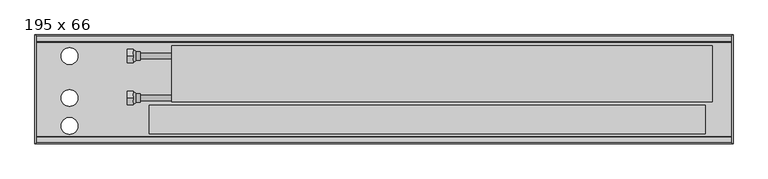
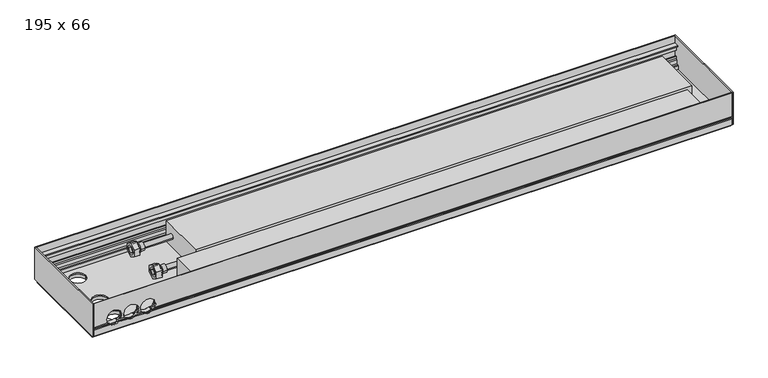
"""IFC4 building model written with IfcOpenShell, lengths in millimetres: proxy geometry, Mohlenhof_Внутрипольный конвектор_QSKM : 195 x 66."""

from ifc_helpers import new_model, si_unit, point, frame, frame_2d, origin, place, context, project, spatial, polyline, circle_curve, ellipse_curve, trimmed, segment, composite_curve, outline, extrude, source, transform, mapped, element, save
from ifc_brep_helpers import plane_surface, cylinder_surface, revolved_surface, advanced_brep


def proxy_195_x_66_b28eacb2(model_context):
    return source(origin(), model_context, "Body", "SolidModel", [
        advanced_brep(
        [(-449.0, -213.0, -41.0), (-449.0, -201.0, -41.0), (-449.0, -225.0, -41.0), (-436.5, -220.5, -41.0), (-436.5, -205.5, -41.0), (-436.5, -213.0, -41.0), (-444.0, -220.5, -41.0), (-444.0, -205.5, -41.0)],
        [
            (0, 1),
            (1, 2, circle_curve(frame((-449.0, -213.0, -41.0), z_axis=(-1.0, 0.0, 0.0), x_axis=(0.0, 1.0, 0.0)), 12.0)),
            (2, 0),
            (2, 1, circle_curve(frame((-449.0, -213.0, -41.0), z_axis=(-1.0, 0.0, 0.0), x_axis=(0.0, 1.0, 0.0)), 12.0)),
            (3, 4, circle_curve(frame((-436.5, -213.0, -41.0), z_axis=(1.0, 0.0, 0.0), x_axis=(0.0, 1.0, 0.0)), 7.5)),
            (4, 5),
            (5, 3),
            (4, 3, circle_curve(frame((-436.5, -213.0, -41.0), z_axis=(1.0, 0.0, 0.0), x_axis=(0.0, 1.0, 0.0)), 7.5)),
            (6, 7, circle_curve(frame((-444.0, -213.0, -41.0), z_axis=(1.0, 0.0, 0.0), x_axis=(0.0, 1.0, 0.0)), 7.5)),
            (7, 4),
            (3, 6),
            (7, 6, circle_curve(frame((-444.0, -213.0, -41.0), z_axis=(1.0, 0.0, 0.0), x_axis=(0.0, 1.0, 0.0)), 7.5)),
            (1, 7),
            (6, 2),
        ],
        [
            plane_surface(frame((-449.0, -213.0, -41.0), z_axis=(-1.0, 0.0, 0.0), x_axis=(0.0, 1.0, 0.0))),
            plane_surface(frame((-436.5, -213.0, -41.0), z_axis=(1.0, 0.0, 0.0), x_axis=(0.0, 1.0, 0.0))),
            cylinder_surface(frame((-449.0, -213.0, -41.0), z_axis=(-1.0, 0.0, 0.0), x_axis=(0.0, 1.0, 0.0)), 7.5),
            revolved_surface(polyline([(-444.0, -205.5, -41.0), (-449.0, -201.0, -41.0)]), (-449.0, -213.0, -41.0), (-1.0, 0.0, 0.0)),
        ],
        [
            (0, [[1, 2, 3]]),
            (0, [[-3, 4, -1]]),
            (1, [[5, 6, 7]]),
            (1, [[8, -7, -6]]),
            (2, [[9, 10, -5, 11]]),
            (2, [[12, -11, -8, -10]]),
            (3, [[-2, 13, -9, 14]]),
            (3, [[-4, -14, -12, -13]]),
        ],
    ),
        extrude(outline(polyline([(-213.0, -27.1435935), (-201.0, -34.0717968), (-201.0, -47.9282032), (-213.0, -54.8564065), (-225.0, -47.9282032), (-225.0, -34.0717968), (-213.0, -27.1435935)]), holes=[composite_curve([segment(trimmed(circle_curve(frame_2d((-213.0, -41.0)), 8.5), [point((-204.5, -41.0))], [point((-221.5, -41.0))], True, "CARTESIAN"), True, "CONTINUOUS"), segment(trimmed(circle_curve(frame_2d((-213.0, -41.0)), 8.5), [point((-221.5, -41.0))], [point((-204.5, -41.0))], True, "CARTESIAN"), True, "CONTINUOUS")], self_intersect=False)]), frame((-460.0, 0.0, 0.0), z_axis=(1.0, 0.0, 0.0), x_axis=(0.0, 1.0, 0.0)), (0.0, 0.0, 1.0), 11.0),
        advanced_brep(
        [(-449.0, -138.0, -41.0), (-449.0, -126.0, -41.0), (-449.0, -150.0, -41.0), (-436.5, -145.5, -41.0), (-436.5, -130.5, -41.0), (-436.5, -138.0, -41.0), (-444.0, -145.5, -41.0), (-444.0, -130.5, -41.0)],
        [
            (0, 1),
            (1, 2, circle_curve(frame((-449.0, -138.0, -41.0), z_axis=(-1.0, 0.0, 0.0), x_axis=(0.0, 1.0, 0.0)), 12.0)),
            (2, 0),
            (2, 1, circle_curve(frame((-449.0, -138.0, -41.0), z_axis=(-1.0, 0.0, 0.0), x_axis=(0.0, 1.0, 0.0)), 12.0)),
            (3, 4, circle_curve(frame((-436.5, -138.0, -41.0), z_axis=(1.0, 0.0, 0.0), x_axis=(0.0, 1.0, 0.0)), 7.5)),
            (4, 5),
            (5, 3),
            (4, 3, circle_curve(frame((-436.5, -138.0, -41.0), z_axis=(1.0, 0.0, 0.0), x_axis=(0.0, 1.0, 0.0)), 7.5)),
            (6, 7, circle_curve(frame((-444.0, -138.0, -41.0), z_axis=(1.0, 0.0, 0.0), x_axis=(0.0, 1.0, 0.0)), 7.5)),
            (7, 4),
            (3, 6),
            (7, 6, circle_curve(frame((-444.0, -138.0, -41.0), z_axis=(1.0, 0.0, 0.0), x_axis=(0.0, 1.0, 0.0)), 7.5)),
            (1, 7),
            (6, 2),
        ],
        [
            plane_surface(frame((-449.0, -138.0, -41.0), z_axis=(-1.0, 0.0, 0.0), x_axis=(0.0, 1.0, 0.0))),
            plane_surface(frame((-436.5, -138.0, -41.0), z_axis=(1.0, 0.0, 0.0), x_axis=(0.0, 1.0, 0.0))),
            cylinder_surface(frame((-449.0, -138.0, -41.0), z_axis=(-1.0, 0.0, 0.0), x_axis=(0.0, 1.0, 0.0)), 7.5),
            revolved_surface(polyline([(-444.0, -130.5, -41.0), (-449.0, -126.0, -41.0)]), (-449.0, -138.0, -41.0), (-1.0, 0.0, 0.0)),
        ],
        [
            (0, [[1, 2, 3]]),
            (0, [[-3, 4, -1]]),
            (1, [[5, 6, 7]]),
            (1, [[8, -7, -6]]),
            (2, [[9, 10, -5, 11]]),
            (2, [[12, -11, -8, -10]]),
            (3, [[-2, 13, -9, 14]]),
            (3, [[-4, -14, -12, -13]]),
        ],
    ),
        extrude(outline(polyline([(-138.0, -27.1435935), (-126.0, -34.0717968), (-126.0, -47.9282032), (-138.0, -54.8564065), (-150.0, -47.9282032), (-150.0, -34.0717968), (-138.0, -27.1435935)]), holes=[composite_curve([segment(trimmed(circle_curve(frame_2d((-138.0, -41.0)), 8.5), [point((-129.5, -41.0))], [point((-146.5, -41.0))], True, "CARTESIAN"), True, "CONTINUOUS"), segment(trimmed(circle_curve(frame_2d((-138.0, -41.0)), 8.5), [point((-146.5, -41.0))], [point((-129.5, -41.0))], True, "CARTESIAN"), True, "CONTINUOUS")], self_intersect=False)]), frame((-460.0, 0.0, 0.0), z_axis=(1.0, 0.0, 0.0), x_axis=(0.0, 1.0, 0.0)), (0.0, 0.0, 1.0), 11.0),
        extrude(outline(composite_curve([segment(trimmed(circle_curve(frame_2d((-600.0, -273.5)), 4.5), [point((-604.5, -273.5))], [point((-595.5, -273.5))], False, "CARTESIAN"), True, "CONTINUOUS"), segment(trimmed(circle_curve(frame_2d((-600.0, -273.5)), 4.5), [point((-595.5, -273.5))], [point((-604.5, -273.5))], False, "CARTESIAN"), True, "CONTINUOUS")], self_intersect=False)), frame((0.0, 0.0, -79.0), z_axis=(0.0, 0.0, 1.0), x_axis=(1.0, 0.0, 0.0)), (0.0, 0.0, 1.0), 7.0),
        extrude(outline(composite_curve([segment(trimmed(circle_curve(frame_2d((-600.0, -273.5)), 4.0), [point((-604.0, -273.5))], [point((-596.0, -273.5))], False, "CARTESIAN"), True, "CONTINUOUS"), segment(trimmed(circle_curve(frame_2d((-600.0, -273.5)), 4.0), [point((-596.0, -273.5))], [point((-604.0, -273.5))], False, "CARTESIAN"), True, "CONTINUOUS")], self_intersect=False)), frame((0.0, 0.0, -72.0), z_axis=(0.0, 0.0, 1.0), x_axis=(1.0, 0.0, 0.0)), (0.0, 0.0, 1.0), 1.5),
        extrude(outline(composite_curve([segment(trimmed(circle_curve(frame_2d((-600.0, -121.5)), 4.5), [point((-604.5, -121.5))], [point((-595.5, -121.5))], False, "CARTESIAN"), True, "CONTINUOUS"), segment(trimmed(circle_curve(frame_2d((-600.0, -121.5)), 4.5), [point((-595.5, -121.5))], [point((-604.5, -121.5))], False, "CARTESIAN"), True, "CONTINUOUS")], self_intersect=False)), frame((0.0, 0.0, -79.0), z_axis=(0.0, 0.0, 1.0), x_axis=(1.0, 0.0, 0.0)), (0.0, 0.0, 1.0), 7.0),
        extrude(outline(composite_curve([segment(trimmed(circle_curve(frame_2d((-600.0, -121.5)), 4.0), [point((-604.0, -121.5))], [point((-596.0, -121.5))], False, "CARTESIAN"), True, "CONTINUOUS"), segment(trimmed(circle_curve(frame_2d((-600.0, -121.5)), 4.0), [point((-596.0, -121.5))], [point((-604.0, -121.5))], False, "CARTESIAN"), True, "CONTINUOUS")], self_intersect=False)), frame((0.0, 0.0, -72.0), z_axis=(0.0, 0.0, 1.0), x_axis=(1.0, 0.0, 0.0)), (0.0, 0.0, 1.0), 1.5),
        extrude(outline(composite_curve([segment(trimmed(circle_curve(frame_2d((600.0, -273.5)), 4.5), [point((595.5, -273.5))], [point((604.5, -273.5))], False, "CARTESIAN"), True, "CONTINUOUS"), segment(trimmed(circle_curve(frame_2d((600.0, -273.5)), 4.5), [point((604.5, -273.5))], [point((595.5, -273.5))], False, "CARTESIAN"), True, "CONTINUOUS")], self_intersect=False)), frame((0.0, 0.0, -79.0), z_axis=(0.0, 0.0, 1.0), x_axis=(1.0, 0.0, 0.0)), (0.0, 0.0, 1.0), 7.0),
        extrude(outline(composite_curve([segment(trimmed(circle_curve(frame_2d((600.0, -273.5)), 4.0), [point((596.0, -273.5))], [point((604.0, -273.5))], False, "CARTESIAN"), True, "CONTINUOUS"), segment(trimmed(circle_curve(frame_2d((600.0, -273.5)), 4.0), [point((604.0, -273.5))], [point((596.0, -273.5))], False, "CARTESIAN"), True, "CONTINUOUS")], self_intersect=False)), frame((0.0, 0.0, -72.0), z_axis=(0.0, 0.0, 1.0), x_axis=(1.0, 0.0, 0.0)), (0.0, 0.0, 1.0), 1.5),
        extrude(outline(composite_curve([segment(trimmed(circle_curve(frame_2d((600.0, -121.5)), 4.5), [point((595.5, -121.5))], [point((604.5, -121.5))], False, "CARTESIAN"), True, "CONTINUOUS"), segment(trimmed(circle_curve(frame_2d((600.0, -121.5)), 4.5), [point((604.5, -121.5))], [point((595.5, -121.5))], False, "CARTESIAN"), True, "CONTINUOUS")], self_intersect=False)), frame((0.0, 0.0, -79.0), z_axis=(0.0, 0.0, 1.0), x_axis=(1.0, 0.0, 0.0)), (0.0, 0.0, 1.0), 7.0),
        extrude(outline(composite_curve([segment(trimmed(circle_curve(frame_2d((600.0, -121.5)), 4.0), [point((596.0, -121.5))], [point((604.0, -121.5))], False, "CARTESIAN"), True, "CONTINUOUS"), segment(trimmed(circle_curve(frame_2d((600.0, -121.5)), 4.0), [point((604.0, -121.5))], [point((596.0, -121.5))], False, "CARTESIAN"), True, "CONTINUOUS")], self_intersect=False)), frame((0.0, 0.0, -72.0), z_axis=(0.0, 0.0, 1.0), x_axis=(1.0, 0.0, 0.0)), (0.0, 0.0, 1.0), 1.5),
        extrude(outline(polyline([(575.0, -225.87), (575.0, -277.18), (-420.0, -277.18), (-420.0, -225.87), (575.0, -225.87)])), frame((0.0, 0.0, -62.5), z_axis=(0.0, 0.0, 1.0), x_axis=(1.0, 0.0, 0.0)), (0.0, 0.0, 1.0), 43.62),
        extrude(outline(composite_curve([segment(trimmed(circle_curve(frame_2d((-213.0, -41.0)), 5.0), [point((-218.0, -41.0))], [point((-208.0, -41.0))], False, "CARTESIAN"), True, "CONTINUOUS"), segment(trimmed(circle_curve(frame_2d((-213.0, -41.0)), 5.0), [point((-208.0, -41.0))], [point((-218.0, -41.0))], False, "CARTESIAN"), True, "CONTINUOUS")], self_intersect=False)), frame((-460.0, 0.0, 0.0), z_axis=(1.0, 0.0, 0.0), x_axis=(0.0, 1.0, 0.0)), (0.0, 0.0, 1.0), 80.0),
        extrude(outline(composite_curve([segment(trimmed(circle_curve(frame_2d((-138.0, -41.0)), 5.0), [point((-143.0, -41.0))], [point((-133.0, -41.0))], False, "CARTESIAN"), True, "CONTINUOUS"), segment(trimmed(circle_curve(frame_2d((-138.0, -41.0)), 5.0), [point((-133.0, -41.0))], [point((-143.0, -41.0))], False, "CARTESIAN"), True, "CONTINUOUS")], self_intersect=False)), frame((-460.0, 0.0, 0.0), z_axis=(1.0, 0.0, 0.0), x_axis=(0.0, 1.0, 0.0)), (0.0, 0.0, 1.0), 80.0),
        advanced_brep(
        [(623.0, -295.0, -48.5473602), (623.0, -293.5, -49.2468216), (623.0, -292.5, -49.2468216), (623.0, -292.5, -46.0008038), (623.0, -290.0, -46.0008038), (623.0, -290.0, -56.5008038), (623.0, -292.5, -56.5008038), (623.0, -292.5, -53.2468216), (623.0, -293.5, -53.2468216), (623.0, -295.0, -53.9462831), (623.0, -295.0, -66.5), (623.0, -291.0, -66.5), (623.0, -291.0, -65.2), (623.0, -293.0, -65.2), (623.0, -293.0, -62.5), (623.0, -282.0, -62.5), (623.0, -282.0, -54.9172677), (623.0, -283.4172677, -53.5), (623.0, -287.0, -53.5), (623.0, -287.0, -45.91), (623.0, -289.0, -43.91), (623.0, -289.0, -39.5), (623.0, -290.0, -39.5), (623.0, -290.0, -43.5), (623.0, -292.4956439, -43.5), (623.0, -292.4956439, -23.0), (623.0, -290.0, -23.0), (623.0, -290.0, -27.0), (623.0, -289.0, -27.0), (623.0, -289.0, -17.0), (623.0, -283.3956439, -17.0), (623.0, -283.3956439, -15.0), (623.0, -293.4, -15.0), (623.0, -293.4, 0.0), (623.0, -295.0, 0.0), (-623.0, -295.0, -48.5473602), (-623.0, -295.0, 0.0), (-623.0, -293.4, 0.0), (-623.0, -293.4, -15.0), (-623.0, -283.3956439, -15.0), (-623.0, -283.3956439, -17.0), (-623.0, -289.0, -17.0), (-623.0, -289.0, -27.0), (-623.0, -290.0, -27.0), (-623.0, -290.0, -23.0), (-623.0, -292.4956439, -23.0), (-623.0, -292.4956439, -43.5), (-623.0, -290.0, -43.5), (-623.0, -290.0, -39.5), (-623.0, -289.0, -39.5), (-623.0, -289.0, -43.91), (-623.0, -287.0, -45.91), (-623.0, -287.0, -53.5), (-623.0, -283.4172677, -53.5), (-623.0, -282.0, -54.9172677), (-623.0, -282.0, -62.5), (-623.0, -293.0, -62.5), (-623.0, -293.0, -65.2), (-623.0, -291.0, -65.2), (-623.0, -291.0, -66.5), (-623.0, -295.0, -66.5), (-623.0, -295.0, -53.9462831), (-623.0, -293.5, -53.2468216), (-623.0, -292.5, -53.2468216), (-623.0, -292.5, -56.5008038), (-623.0, -290.0, -56.5008038), (-623.0, -290.0, -46.0008038), (-623.0, -292.5, -46.0008038), (-623.0, -292.5, -49.2468216), (-623.0, -293.5, -49.2468216), (-503.7585985, -295.0, -48.5473602), (-504.155283, -293.5, -49.2468216), (-595.844717, -293.5, -49.2468216), (-596.2414015, -295.0, -48.5473602), (-563.2414015, -295.0, -48.5473602), (-569.7585985, -295.0, -48.5473602), (-570.155283, -293.5, -49.2468216), (-562.844717, -293.5, -49.2468216), (-530.2414015, -295.0, -48.5473602), (-536.7585985, -295.0, -48.5473602), (-537.155283, -293.5, -49.2468216), (-529.844717, -293.5, -49.2468216), (-504.155283, -292.5, -49.2468216), (-595.844717, -292.5, -49.2468216), (-570.155283, -292.5, -49.2468216), (-562.844717, -292.5, -49.2468216), (-537.155283, -292.5, -49.2468216), (-529.844717, -292.5, -49.2468216), (-502.6911648, -292.5, -46.0008038), (-597.3088352, -292.5, -46.0008038), (-568.6911648, -292.5, -46.0008038), (-564.3088352, -292.5, -46.0008038), (-535.6911648, -292.5, -46.0008038), (-531.3088352, -292.5, -46.0008038), (-502.6911648, -290.0, -46.0008038), (-597.3088352, -290.0, -46.0008038), (-568.6911648, -290.0, -46.0008038), (-564.3088352, -290.0, -46.0008038), (-535.6911648, -290.0, -46.0008038), (-531.3088352, -290.0, -46.0008038), (-592.328032, -292.5, -53.2468216), (-573.671968, -292.5, -53.2468216), (-559.328032, -292.5, -53.2468216), (-540.671968, -292.5, -53.2468216), (-526.328032, -292.5, -53.2468216), (-507.671968, -292.5, -53.2468216), (-507.671968, -293.5, -53.2468216), (-592.328032, -293.5, -53.2468216), (-573.671968, -293.5, -53.2468216), (-559.328032, -293.5, -53.2468216), (-540.671968, -293.5, -53.2468216), (-526.328032, -293.5, -53.2468216), (-508.6280208, -295.0, -53.9462831), (-591.3719792, -295.0, -53.9462831), (-574.6280208, -295.0, -53.9462831), (-558.3719792, -295.0, -53.9462831), (-541.6280208, -295.0, -53.9462831), (-525.3719792, -295.0, -53.9462831), (-589.7064841, -282.0, -54.9172677), (-576.2935159, -282.0, -54.9172677), (-556.7064841, -282.0, -54.9172677), (-543.2935159, -282.0, -54.9172677), (-523.7064841, -282.0, -54.9172677), (-510.2935159, -282.0, -54.9172677), (-508.0, -283.4172677, -53.5), (-592.0, -283.4172677, -53.5), (-574.0, -283.4172677, -53.5), (-559.0, -283.4172677, -53.5), (-541.0, -283.4172677, -53.5), (-526.0, -283.4172677, -53.5), (-508.0, -287.0, -53.5), (-592.0, -287.0, -53.5), (-574.0, -287.0, -53.5), (-559.0, -287.0, -53.5), (-541.0, -287.0, -53.5), (-526.0, -287.0, -53.5), (-502.6629187, -287.0, -45.91), (-597.3370813, -287.0, -45.91), (-568.6629187, -287.0, -45.91), (-564.3370813, -287.0, -45.91), (-535.6629187, -287.0, -45.91), (-531.3370813, -287.0, -45.91), (-502.1948691, -289.0, -43.91), (-597.8051309, -289.0, -43.91), (-568.1948691, -289.0, -43.91), (-564.8051309, -289.0, -43.91), (-535.1948691, -289.0, -43.91), (-531.8051309, -289.0, -43.91), (-502.0, -289.0, -41.5), (-502.1339313, -289.0, -39.5), (-597.8660687, -289.0, -39.5), (-598.0, -289.0, -41.5), (-568.0, -289.0, -41.5), (-568.1339313, -289.0, -39.5), (-564.8660687, -289.0, -39.5), (-565.0, -289.0, -41.5), (-535.0, -289.0, -41.5), (-535.1339313, -289.0, -39.5), (-531.8660687, -289.0, -39.5), (-532.0, -289.0, -41.5), (-502.1339313, -290.0, -39.5), (-597.8660687, -290.0, -39.5), (-568.1339313, -290.0, -39.5), (-564.8660687, -290.0, -39.5), (-535.1339313, -290.0, -39.5), (-531.8660687, -290.0, -39.5), (-502.0, -290.0, -41.5), (-502.1339313, -290.0, -43.5), (-597.8660687, -290.0, -43.5), (-598.0, -290.0, -41.5), (-568.0, -290.0, -41.5), (-568.1339313, -290.0, -43.5), (-564.8660687, -290.0, -43.5), (-565.0, -290.0, -41.5), (-535.0, -290.0, -41.5), (-535.1339313, -290.0, -43.5), (-531.8660687, -290.0, -43.5), (-532.0, -290.0, -41.5), (-502.1339313, -292.4956439, -43.5), (-597.8660687, -292.4956439, -43.5), (-568.1339313, -292.4956439, -43.5), (-564.8660687, -292.4956439, -43.5), (-535.1339313, -292.4956439, -43.5), (-531.8660687, -292.4956439, -43.5), (-502.0, -292.4956439, -41.5), (-532.0, -292.4956439, -41.5), (-535.0, -292.4956439, -41.5), (-565.0, -292.4956439, -41.5), (-568.0, -292.4956439, -41.5), (-598.0, -292.4956439, -41.5), (-586.8405729, -290.0, -27.0), (-579.1594271, -290.0, -27.0), (-553.8405729, -290.0, -27.0), (-546.1594271, -290.0, -27.0), (-520.8405729, -290.0, -27.0), (-513.1594271, -290.0, -27.0), (-513.1594271, -289.0, -27.0), (-586.8405729, -289.0, -27.0), (-579.1594271, -289.0, -27.0), (-553.8405729, -289.0, -27.0), (-546.1594271, -289.0, -27.0), (-520.8405729, -289.0, -27.0), (-598.0, -295.0, -41.5), (-568.0, -295.0, -41.5), (-565.0, -295.0, -41.5), (-535.0, -295.0, -41.5), (-532.0, -295.0, -41.5), (-502.0, -295.0, -41.5)],
        [
            (0, 1),
            (1, 2),
            (2, 3),
            (3, 4),
            (4, 5),
            (5, 6),
            (6, 7),
            (7, 8),
            (8, 9),
            (9, 10),
            (10, 11),
            (11, 12),
            (12, 13),
            (13, 14),
            (14, 15),
            (15, 16),
            (16, 17),
            (17, 18),
            (18, 19),
            (19, 20),
            (20, 21),
            (21, 22),
            (22, 23),
            (23, 24),
            (24, 25),
            (25, 26),
            (26, 27),
            (27, 28),
            (28, 29),
            (29, 30),
            (30, 31),
            (31, 32),
            (32, 33),
            (33, 34),
            (34, 0),
            (35, 36),
            (36, 37),
            (37, 38),
            (38, 39),
            (39, 40),
            (40, 41),
            (41, 42),
            (42, 43),
            (43, 44),
            (44, 45),
            (45, 46),
            (46, 47),
            (47, 48),
            (48, 49),
            (49, 50),
            (50, 51),
            (51, 52),
            (52, 53),
            (53, 54),
            (54, 55),
            (55, 56),
            (56, 57),
            (57, 58),
            (58, 59),
            (59, 60),
            (60, 61),
            (61, 62),
            (62, 63),
            (63, 64),
            (64, 65),
            (65, 66),
            (66, 67),
            (67, 68),
            (68, 69),
            (69, 35),
            (0, 70),
            (70, 71, ellipse_curve(frame((-517.0, -310.1131126, -41.5), z_axis=(0.0, 0.42261826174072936, 0.9063077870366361), x_axis=(0.0, -0.906307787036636, 0.4226182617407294)), 35.4930237, 15.0)),
            (71, 1),
            (69, 72),
            (72, 73, ellipse_curve(frame((-583.0, -310.1131126, -41.5), z_axis=(0.0, 0.42261826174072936, 0.9063077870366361), x_axis=(0.0, -0.906307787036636, 0.4226182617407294)), 35.4930237, 15.0)),
            (73, 35),
            (74, 75),
            (75, 76, ellipse_curve(frame((-583.0, -310.1131126, -41.5), z_axis=(0.0, 0.42261826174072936, 0.9063077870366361), x_axis=(0.0, -0.906307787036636, 0.4226182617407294)), 35.4930237, 15.0)),
            (76, 77),
            (77, 74, ellipse_curve(frame((-550.0, -310.1131126, -41.5), z_axis=(0.0, 0.42261826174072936, 0.9063077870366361), x_axis=(0.0, -0.906307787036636, 0.4226182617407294)), 35.4930237, 15.0)),
            (78, 79),
            (79, 80, ellipse_curve(frame((-550.0, -310.1131126, -41.5), z_axis=(0.0, 0.42261826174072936, 0.9063077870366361), x_axis=(0.0, -0.906307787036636, 0.4226182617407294)), 35.4930237, 15.0)),
            (80, 81),
            (81, 78, ellipse_curve(frame((-517.0, -310.1131126, -41.5), z_axis=(0.0, 0.42261826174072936, 0.9063077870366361), x_axis=(0.0, -0.906307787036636, 0.4226182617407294)), 35.4930237, 15.0)),
            (71, 82),
            (82, 2),
            (68, 83),
            (83, 72),
            (76, 84),
            (84, 85),
            (85, 77),
            (80, 86),
            (86, 87),
            (87, 81),
            (82, 88, circle_curve(frame((-517.0, -292.5, -41.5), z_axis=(0.0, -1.0, 0.0), x_axis=(1.0, 0.0, 0.0)), 15.0)),
            (88, 3),
            (67, 89),
            (89, 83, circle_curve(frame((-583.0, -292.5, -41.5), z_axis=(0.0, -1.0, 0.0), x_axis=(1.0, 0.0, 0.0)), 15.0)),
            (84, 90, circle_curve(frame((-583.0, -292.5, -41.5), z_axis=(0.0, -1.0, 0.0), x_axis=(1.0, 0.0, 0.0)), 15.0)),
            (90, 91),
            (91, 85, circle_curve(frame((-550.0, -292.5, -41.5), z_axis=(0.0, -1.0, 0.0), x_axis=(1.0, 0.0, 0.0)), 15.0)),
            (86, 92, circle_curve(frame((-550.0, -292.5, -41.5), z_axis=(0.0, -1.0, 0.0), x_axis=(1.0, 0.0, 0.0)), 15.0)),
            (92, 93),
            (93, 87, circle_curve(frame((-517.0, -292.5, -41.5), z_axis=(0.0, -1.0, 0.0), x_axis=(1.0, 0.0, 0.0)), 15.0)),
            (88, 94),
            (94, 4),
            (66, 95),
            (95, 89),
            (90, 96),
            (96, 97),
            (97, 91),
            (92, 98),
            (98, 99),
            (99, 93),
            (94, 99, circle_curve(frame((-517.0, -290.0, -41.5), z_axis=(0.0, 1.0, 0.0), x_axis=(1.0, 0.0, 0.0)), 15.0)),
            (98, 97, circle_curve(frame((-550.0, -290.0, -41.5), z_axis=(0.0, 1.0, 0.0), x_axis=(1.0, 0.0, 0.0)), 15.0)),
            (96, 95, circle_curve(frame((-583.0, -290.0, -41.5), z_axis=(0.0, 1.0, 0.0), x_axis=(1.0, 0.0, 0.0)), 15.0)),
            (65, 5),
            (64, 6),
            (63, 100),
            (100, 101, circle_curve(frame((-583.0, -292.5, -41.5), z_axis=(0.0, -1.0, 0.0), x_axis=(1.0, 0.0, 0.0)), 15.0)),
            (101, 102),
            (102, 103, circle_curve(frame((-550.0, -292.5, -41.5), z_axis=(0.0, -1.0, 0.0), x_axis=(1.0, 0.0, 0.0)), 15.0)),
            (103, 104),
            (104, 105, circle_curve(frame((-517.0, -292.5, -41.5), z_axis=(0.0, -1.0, 0.0), x_axis=(1.0, 0.0, 0.0)), 15.0)),
            (105, 7),
            (105, 106),
            (106, 8),
            (62, 107),
            (107, 100),
            (101, 108),
            (108, 109),
            (109, 102),
            (103, 110),
            (110, 111),
            (111, 104),
            (106, 112, ellipse_curve(frame((-517.0, -268.3088597, -41.5), z_axis=(0.0, 0.4226182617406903, -0.9063077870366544), x_axis=(0.0, -0.9063077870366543, -0.42261826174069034)), 35.4930237, 15.0)),
            (112, 9),
            (61, 113),
            (113, 107, ellipse_curve(frame((-583.0, -268.3088597, -41.5), z_axis=(0.0, 0.4226182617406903, -0.9063077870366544), x_axis=(0.0, -0.9063077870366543, -0.42261826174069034)), 35.4930237, 15.0)),
            (108, 114, ellipse_curve(frame((-583.0, -268.3088597, -41.5), z_axis=(0.0, 0.4226182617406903, -0.9063077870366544), x_axis=(0.0, -0.9063077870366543, -0.42261826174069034)), 35.4930237, 15.0)),
            (114, 115),
            (115, 109, ellipse_curve(frame((-550.0, -268.3088597, -41.5), z_axis=(0.0, 0.4226182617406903, -0.9063077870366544), x_axis=(0.0, -0.9063077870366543, -0.42261826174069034)), 35.4930237, 15.0)),
            (110, 116, ellipse_curve(frame((-550.0, -268.3088597, -41.5), z_axis=(0.0, 0.4226182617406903, -0.9063077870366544), x_axis=(0.0, -0.9063077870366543, -0.42261826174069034)), 35.4930237, 15.0)),
            (116, 117),
            (117, 111, ellipse_curve(frame((-517.0, -268.3088597, -41.5), z_axis=(0.0, 0.4226182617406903, -0.9063077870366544), x_axis=(0.0, -0.9063077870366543, -0.42261826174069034)), 35.4930237, 15.0)),
            (112, 117, circle_curve(frame((-517.0, -295.0, -41.5), z_axis=(0.0, 1.0, 0.0), x_axis=(1.0, 0.0, 0.0)), 15.0)),
            (116, 115, circle_curve(frame((-550.0, -295.0, -41.5), z_axis=(0.0, 1.0, 0.0), x_axis=(1.0, 0.0, 0.0)), 15.0)),
            (114, 113, circle_curve(frame((-583.0, -295.0, -41.5), z_axis=(0.0, 1.0, 0.0), x_axis=(1.0, 0.0, 0.0)), 15.0)),
            (60, 10),
            (59, 11),
            (58, 12),
            (57, 13),
            (56, 14),
            (55, 15),
            (54, 118),
            (118, 119, circle_curve(frame((-583.0, -282.0, -41.5), z_axis=(0.0, -1.0, 0.0), x_axis=(1.0, 0.0, 0.0)), 15.0)),
            (119, 120),
            (120, 121, circle_curve(frame((-550.0, -282.0, -41.5), z_axis=(0.0, -1.0, 0.0), x_axis=(1.0, 0.0, 0.0)), 15.0)),
            (121, 122),
            (122, 123, circle_curve(frame((-517.0, -282.0, -41.5), z_axis=(0.0, -1.0, 0.0), x_axis=(1.0, 0.0, 0.0)), 15.0)),
            (123, 16),
            (123, 124, ellipse_curve(frame((-517.0, -295.4172677, -41.5), z_axis=(0.0, -0.7071067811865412, -0.7071067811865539), x_axis=(0.0, -0.7071067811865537, 0.7071067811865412)), 21.2132034, 15.0)),
            (124, 17),
            (53, 125),
            (125, 118, ellipse_curve(frame((-583.0, -295.4172677, -41.5), z_axis=(0.0, -0.7071067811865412, -0.7071067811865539), x_axis=(0.0, -0.7071067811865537, 0.7071067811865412)), 21.2132034, 15.0)),
            (119, 126, ellipse_curve(frame((-583.0, -295.4172677, -41.5), z_axis=(0.0, -0.7071067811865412, -0.7071067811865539), x_axis=(0.0, -0.7071067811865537, 0.7071067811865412)), 21.2132034, 15.0)),
            (126, 127),
            (127, 120, ellipse_curve(frame((-550.0, -295.4172677, -41.5), z_axis=(0.0, -0.7071067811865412, -0.7071067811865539), x_axis=(0.0, -0.7071067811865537, 0.7071067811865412)), 21.2132034, 15.0)),
            (121, 128, ellipse_curve(frame((-550.0, -295.4172677, -41.5), z_axis=(0.0, -0.7071067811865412, -0.7071067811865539), x_axis=(0.0, -0.7071067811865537, 0.7071067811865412)), 21.2132034, 15.0)),
            (128, 129),
            (129, 122, ellipse_curve(frame((-517.0, -295.4172677, -41.5), z_axis=(0.0, -0.7071067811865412, -0.7071067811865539), x_axis=(0.0, -0.7071067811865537, 0.7071067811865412)), 21.2132034, 15.0)),
            (124, 130),
            (130, 18),
            (52, 131),
            (131, 125),
            (126, 132),
            (132, 133),
            (133, 127),
            (128, 134),
            (134, 135),
            (135, 129),
            (130, 136, circle_curve(frame((-517.0, -287.0, -41.5), z_axis=(0.0, -1.0, 0.0), x_axis=(1.0, 0.0, 0.0)), 15.0)),
            (136, 19),
            (51, 137),
            (137, 131, circle_curve(frame((-583.0, -287.0, -41.5), z_axis=(0.0, -1.0, 0.0), x_axis=(1.0, 0.0, 0.0)), 15.0)),
            (132, 138, circle_curve(frame((-583.0, -287.0, -41.5), z_axis=(0.0, -1.0, 0.0), x_axis=(1.0, 0.0, 0.0)), 15.0)),
            (138, 139),
            (139, 133, circle_curve(frame((-550.0, -287.0, -41.5), z_axis=(0.0, -1.0, 0.0), x_axis=(1.0, 0.0, 0.0)), 15.0)),
            (134, 140, circle_curve(frame((-550.0, -287.0, -41.5), z_axis=(0.0, -1.0, 0.0), x_axis=(1.0, 0.0, 0.0)), 15.0)),
            (140, 141),
            (141, 135, circle_curve(frame((-517.0, -287.0, -41.5), z_axis=(0.0, -1.0, 0.0), x_axis=(1.0, 0.0, 0.0)), 15.0)),
            (136, 142, ellipse_curve(frame((-517.0, -291.41, -41.5), z_axis=(0.0, -0.7071067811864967, -0.7071067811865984), x_axis=(0.0, -0.7071067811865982, 0.7071067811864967)), 21.2132034, 15.0)),
            (142, 20),
            (50, 143),
            (143, 137, ellipse_curve(frame((-583.0, -291.41, -41.5), z_axis=(0.0, -0.7071067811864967, -0.7071067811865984), x_axis=(0.0, -0.7071067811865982, 0.7071067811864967)), 21.2132034, 15.0)),
            (138, 144, ellipse_curve(frame((-583.0, -291.41, -41.5), z_axis=(0.0, -0.7071067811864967, -0.7071067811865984), x_axis=(0.0, -0.7071067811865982, 0.7071067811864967)), 21.2132034, 15.0)),
            (144, 145),
            (145, 139, ellipse_curve(frame((-550.0, -291.41, -41.5), z_axis=(0.0, -0.7071067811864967, -0.7071067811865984), x_axis=(0.0, -0.7071067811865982, 0.7071067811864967)), 21.2132034, 15.0)),
            (140, 146, ellipse_curve(frame((-550.0, -291.41, -41.5), z_axis=(0.0, -0.7071067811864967, -0.7071067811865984), x_axis=(0.0, -0.7071067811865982, 0.7071067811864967)), 21.2132034, 15.0)),
            (146, 147),
            (147, 141, ellipse_curve(frame((-517.0, -291.41, -41.5), z_axis=(0.0, -0.7071067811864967, -0.7071067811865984), x_axis=(0.0, -0.7071067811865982, 0.7071067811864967)), 21.2132034, 15.0)),
            (142, 148, circle_curve(frame((-517.0, -289.0, -41.5), z_axis=(0.0, -1.0, 0.0), x_axis=(1.0, 0.0, 0.0)), 15.0)),
            (148, 149, circle_curve(frame((-517.0, -289.0, -41.5), z_axis=(0.0, -1.0, 0.0), x_axis=(1.0, 0.0, 0.0)), 15.0)),
            (149, 21),
            (49, 150),
            (150, 151, circle_curve(frame((-583.0, -289.0, -41.5), z_axis=(0.0, -1.0, 0.0), x_axis=(1.0, 0.0, 0.0)), 15.0)),
            (151, 143, circle_curve(frame((-583.0, -289.0, -41.5), z_axis=(0.0, -1.0, 0.0), x_axis=(1.0, 0.0, 0.0)), 15.0)),
            (144, 152, circle_curve(frame((-583.0, -289.0, -41.5), z_axis=(0.0, -1.0, 0.0), x_axis=(1.0, 0.0, 0.0)), 15.0)),
            (152, 153, circle_curve(frame((-583.0, -289.0, -41.5), z_axis=(0.0, -1.0, 0.0), x_axis=(1.0, 0.0, 0.0)), 15.0)),
            (153, 154),
            (154, 155, circle_curve(frame((-550.0, -289.0, -41.5), z_axis=(0.0, -1.0, 0.0), x_axis=(1.0, 0.0, 0.0)), 15.0)),
            (155, 145, circle_curve(frame((-550.0, -289.0, -41.5), z_axis=(0.0, -1.0, 0.0), x_axis=(1.0, 0.0, 0.0)), 15.0)),
            (146, 156, circle_curve(frame((-550.0, -289.0, -41.5), z_axis=(0.0, -1.0, 0.0), x_axis=(1.0, 0.0, 0.0)), 15.0)),
            (156, 157, circle_curve(frame((-550.0, -289.0, -41.5), z_axis=(0.0, -1.0, 0.0), x_axis=(1.0, 0.0, 0.0)), 15.0)),
            (157, 158),
            (158, 159, circle_curve(frame((-517.0, -289.0, -41.5), z_axis=(0.0, -1.0, 0.0), x_axis=(1.0, 0.0, 0.0)), 15.0)),
            (159, 147, circle_curve(frame((-517.0, -289.0, -41.5), z_axis=(0.0, -1.0, 0.0), x_axis=(1.0, 0.0, 0.0)), 15.0)),
            (149, 160),
            (160, 22),
            (48, 161),
            (161, 150),
            (153, 162),
            (162, 163),
            (163, 154),
            (157, 164),
            (164, 165),
            (165, 158),
            (160, 166, circle_curve(frame((-517.0, -290.0, -41.5), z_axis=(0.0, 1.0, 0.0), x_axis=(1.0, 0.0, 0.0)), 15.0)),
            (166, 167, circle_curve(frame((-517.0, -290.0, -41.5), z_axis=(0.0, 1.0, 0.0), x_axis=(1.0, 0.0, 0.0)), 15.0)),
            (167, 23),
            (47, 168),
            (168, 169, circle_curve(frame((-583.0, -290.0, -41.5), z_axis=(0.0, 1.0, 0.0), x_axis=(1.0, 0.0, 0.0)), 15.0)),
            (169, 161, circle_curve(frame((-583.0, -290.0, -41.5), z_axis=(0.0, 1.0, 0.0), x_axis=(1.0, 0.0, 0.0)), 15.0)),
            (162, 170, circle_curve(frame((-583.0, -290.0, -41.5), z_axis=(0.0, 1.0, 0.0), x_axis=(1.0, 0.0, 0.0)), 15.0)),
            (170, 171, circle_curve(frame((-583.0, -290.0, -41.5), z_axis=(0.0, 1.0, 0.0), x_axis=(1.0, 0.0, 0.0)), 15.0)),
            (171, 172),
            (172, 173, circle_curve(frame((-550.0, -290.0, -41.5), z_axis=(0.0, 1.0, 0.0), x_axis=(1.0, 0.0, 0.0)), 15.0)),
            (173, 163, circle_curve(frame((-550.0, -290.0, -41.5), z_axis=(0.0, 1.0, 0.0), x_axis=(1.0, 0.0, 0.0)), 15.0)),
            (164, 174, circle_curve(frame((-550.0, -290.0, -41.5), z_axis=(0.0, 1.0, 0.0), x_axis=(1.0, 0.0, 0.0)), 15.0)),
            (174, 175, circle_curve(frame((-550.0, -290.0, -41.5), z_axis=(0.0, 1.0, 0.0), x_axis=(1.0, 0.0, 0.0)), 15.0)),
            (175, 176),
            (176, 177, circle_curve(frame((-517.0, -290.0, -41.5), z_axis=(0.0, 1.0, 0.0), x_axis=(1.0, 0.0, 0.0)), 15.0)),
            (177, 165, circle_curve(frame((-517.0, -290.0, -41.5), z_axis=(0.0, 1.0, 0.0), x_axis=(1.0, 0.0, 0.0)), 15.0)),
            (167, 178),
            (178, 24),
            (46, 179),
            (179, 168),
            (171, 180),
            (180, 181),
            (181, 172),
            (175, 182),
            (182, 183),
            (183, 176),
            (178, 184, circle_curve(frame((-517.0, -292.4956439, -41.5), z_axis=(0.0, -1.0, 0.0), x_axis=(1.0, 0.0, 0.0)), 15.0)),
            (184, 185, circle_curve(frame((-517.0, -292.4956439, -41.5), z_axis=(0.0, -1.0, 0.0), x_axis=(1.0, 0.0, 0.0)), 15.0)),
            (185, 183, circle_curve(frame((-517.0, -292.4956439, -41.5), z_axis=(0.0, -1.0, 0.0), x_axis=(1.0, 0.0, 0.0)), 15.0)),
            (182, 186, circle_curve(frame((-550.0, -292.4956439, -41.5), z_axis=(0.0, -1.0, 0.0), x_axis=(1.0, 0.0, 0.0)), 15.0)),
            (186, 187, circle_curve(frame((-550.0, -292.4956439, -41.5), z_axis=(0.0, -1.0, 0.0), x_axis=(1.0, 0.0, 0.0)), 15.0)),
            (187, 181, circle_curve(frame((-550.0, -292.4956439, -41.5), z_axis=(0.0, -1.0, 0.0), x_axis=(1.0, 0.0, 0.0)), 15.0)),
            (180, 188, circle_curve(frame((-583.0, -292.4956439, -41.5), z_axis=(0.0, -1.0, 0.0), x_axis=(1.0, 0.0, 0.0)), 15.0)),
            (188, 189, circle_curve(frame((-583.0, -292.4956439, -41.5), z_axis=(0.0, -1.0, 0.0), x_axis=(1.0, 0.0, 0.0)), 15.0)),
            (189, 179, circle_curve(frame((-583.0, -292.4956439, -41.5), z_axis=(0.0, -1.0, 0.0), x_axis=(1.0, 0.0, 0.0)), 15.0)),
            (45, 25),
            (44, 26),
            (43, 190),
            (190, 191, circle_curve(frame((-583.0, -290.0, -41.5), z_axis=(0.0, 1.0, 0.0), x_axis=(1.0, 0.0, 0.0)), 15.0)),
            (191, 192),
            (192, 193, circle_curve(frame((-550.0, -290.0, -41.5), z_axis=(0.0, 1.0, 0.0), x_axis=(1.0, 0.0, 0.0)), 15.0)),
            (193, 194),
            (194, 195, circle_curve(frame((-517.0, -290.0, -41.5), z_axis=(0.0, 1.0, 0.0), x_axis=(1.0, 0.0, 0.0)), 15.0)),
            (195, 27),
            (195, 196),
            (196, 28),
            (42, 197),
            (197, 190),
            (191, 198),
            (198, 199),
            (199, 192),
            (193, 200),
            (200, 201),
            (201, 194),
            (196, 201, circle_curve(frame((-517.0, -289.0, -41.5), z_axis=(0.0, -1.0, 0.0), x_axis=(1.0, 0.0, 0.0)), 15.0)),
            (200, 199, circle_curve(frame((-550.0, -289.0, -41.5), z_axis=(0.0, -1.0, 0.0), x_axis=(1.0, 0.0, 0.0)), 15.0)),
            (198, 197, circle_curve(frame((-583.0, -289.0, -41.5), z_axis=(0.0, -1.0, 0.0), x_axis=(1.0, 0.0, 0.0)), 15.0)),
            (41, 29),
            (40, 30),
            (39, 31),
            (38, 32),
            (37, 33),
            (36, 34),
            (73, 202, circle_curve(frame((-583.0, -295.0, -41.5), z_axis=(0.0, 1.0, 0.0), x_axis=(1.0, 0.0, 0.0)), 15.0)),
            (202, 203, circle_curve(frame((-583.0, -295.0, -41.5), z_axis=(0.0, 1.0, 0.0), x_axis=(1.0, 0.0, 0.0)), 15.0)),
            (203, 75, circle_curve(frame((-583.0, -295.0, -41.5), z_axis=(0.0, 1.0, 0.0), x_axis=(1.0, 0.0, 0.0)), 15.0)),
            (74, 204, circle_curve(frame((-550.0, -295.0, -41.5), z_axis=(0.0, 1.0, 0.0), x_axis=(1.0, 0.0, 0.0)), 15.0)),
            (204, 205, circle_curve(frame((-550.0, -295.0, -41.5), z_axis=(0.0, 1.0, 0.0), x_axis=(1.0, 0.0, 0.0)), 15.0)),
            (205, 79, circle_curve(frame((-550.0, -295.0, -41.5), z_axis=(0.0, 1.0, 0.0), x_axis=(1.0, 0.0, 0.0)), 15.0)),
            (78, 206, circle_curve(frame((-517.0, -295.0, -41.5), z_axis=(0.0, 1.0, 0.0), x_axis=(1.0, 0.0, 0.0)), 15.0)),
            (206, 207, circle_curve(frame((-517.0, -295.0, -41.5), z_axis=(0.0, 1.0, 0.0), x_axis=(1.0, 0.0, 0.0)), 15.0)),
            (207, 70, circle_curve(frame((-517.0, -295.0, -41.5), z_axis=(0.0, 1.0, 0.0), x_axis=(1.0, 0.0, 0.0)), 15.0)),
            (151, 169),
            (189, 202),
            (203, 188),
            (170, 152),
            (155, 173),
            (187, 204),
            (205, 186),
            (174, 156),
            (159, 177),
            (185, 206),
            (207, 184),
            (166, 148),
        ],
        [
            plane_surface(frame((623.0, -293.0, -62.5), z_axis=(1.0, 0.0, 0.0), x_axis=(0.0, 0.0, 1.0))),
            plane_surface(frame((-623.0, -293.0, -62.5), z_axis=(-1.0, 0.0, 0.0), x_axis=(0.0, 0.0, 1.0))),
            plane_surface(frame((623.0, -295.0, -48.5473602), z_axis=(0.0, -0.42261826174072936, -0.9063077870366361), x_axis=(-1.0, 0.0, 0.0))),
            plane_surface(frame((623.0, -293.5, -49.2468216), z_axis=(0.0, 0.0, -1.0), x_axis=(-1.0, 0.0, 0.0))),
            plane_surface(frame((623.0, -292.5, -49.2468216), z_axis=(0.0, 1.0, 0.0), x_axis=(-1.0, 0.0, 0.0))),
            plane_surface(frame((623.0, -292.5, -46.0008038), z_axis=(0.0, 0.0, -1.0), x_axis=(-1.0, 0.0, 0.0))),
            plane_surface(frame((623.0, -290.0, -46.0008038), z_axis=(0.0, -1.0, 0.0), x_axis=(-1.0, 0.0, 0.0))),
            plane_surface(frame((623.0, -290.0, -56.5008038), z_axis=(0.0, 0.0, 1.0), x_axis=(-1.0, 0.0, 0.0))),
            plane_surface(frame((623.0, -292.5, -56.5008038), z_axis=(0.0, 1.0, 0.0), x_axis=(-1.0, 0.0, 0.0))),
            plane_surface(frame((623.0, -292.5, -53.2468216), z_axis=(0.0, 0.0, 1.0), x_axis=(-1.0, 0.0, 0.0))),
            plane_surface(frame((623.0, -293.5, -53.2468216), z_axis=(0.0, -0.4226182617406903, 0.9063077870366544), x_axis=(-1.0, 0.0, 0.0))),
            plane_surface(frame((623.0, -295.0, -53.9462831), z_axis=(0.0, -1.0, 0.0), x_axis=(-1.0, 0.0, 0.0))),
            plane_surface(frame((623.0, -295.0, -66.5), z_axis=(0.0, 0.0, -1.0), x_axis=(-1.0, 0.0, 0.0))),
            plane_surface(frame((623.0, -291.0, -66.5), z_axis=(0.0, 1.0, 0.0), x_axis=(-1.0, 0.0, 0.0))),
            plane_surface(frame((623.0, -291.0, -65.2), z_axis=(0.0, 0.0, 1.0), x_axis=(-1.0, 0.0, 0.0))),
            plane_surface(frame((623.0, -293.0, -65.2), z_axis=(0.0, 1.0, 0.0), x_axis=(-1.0, 0.0, 0.0))),
            plane_surface(frame((623.0, -293.0, -62.5), z_axis=(0.0, 0.0, -1.0), x_axis=(-1.0, 0.0, 0.0))),
            plane_surface(frame((623.0, -282.0, -62.5), z_axis=(0.0, 1.0, 0.0), x_axis=(-1.0, 0.0, 0.0))),
            plane_surface(frame((623.0, -282.0, -54.9172677), z_axis=(0.0, 0.7071067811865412, 0.7071067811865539), x_axis=(-1.0, 0.0, 0.0))),
            plane_surface(frame((623.0, -283.4172677, -53.5), z_axis=(0.0, 0.0, 1.0), x_axis=(-1.0, 0.0, 0.0))),
            plane_surface(frame((623.0, -287.0, -53.5), z_axis=(0.0, 1.0, 0.0), x_axis=(-1.0, 0.0, 0.0))),
            plane_surface(frame((623.0, -287.0, -45.91), z_axis=(0.0, 0.7071067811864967, 0.7071067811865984), x_axis=(-1.0, 0.0, 0.0))),
            plane_surface(frame((623.0, -289.0, -43.91), z_axis=(0.0, 1.0, 0.0), x_axis=(-1.0, 0.0, 0.0))),
            plane_surface(frame((623.0, -289.0, -39.5), z_axis=(0.0, 0.0, 1.0), x_axis=(-1.0, 0.0, 0.0))),
            plane_surface(frame((623.0, -290.0, -39.5), z_axis=(0.0, -1.0, 0.0), x_axis=(-1.0, 0.0, 0.0))),
            plane_surface(frame((623.0, -290.0, -43.5), z_axis=(0.0, 0.0, 1.0), x_axis=(-1.0, 0.0, 0.0))),
            plane_surface(frame((623.0, -292.4956439, -43.5), z_axis=(0.0, 1.0, 0.0), x_axis=(-1.0, 0.0, 0.0))),
            plane_surface(frame((623.0, -292.4956439, -23.0), z_axis=(0.0, 0.0, -1.0), x_axis=(-1.0, 0.0, 0.0))),
            plane_surface(frame((623.0, -290.0, -23.0), z_axis=(0.0, -1.0, 0.0), x_axis=(-1.0, 0.0, 0.0))),
            plane_surface(frame((623.0, -290.0, -27.0), z_axis=(0.0, 0.0, -1.0), x_axis=(-1.0, 0.0, 0.0))),
            plane_surface(frame((623.0, -289.0, -27.0), z_axis=(0.0, 1.0, 0.0), x_axis=(-1.0, 0.0, 0.0))),
            plane_surface(frame((623.0, -289.0, -17.0), z_axis=(0.0, 0.0, -1.0), x_axis=(-1.0, 0.0, 0.0))),
            plane_surface(frame((623.0, -283.3956439, -17.0), z_axis=(0.0, 1.0, 0.0), x_axis=(-1.0, 0.0, 0.0))),
            plane_surface(frame((623.0, -283.3956439, -15.0), z_axis=(0.0, 0.0, 1.0), x_axis=(-1.0, 0.0, 0.0))),
            plane_surface(frame((623.0, -293.4, -15.0), z_axis=(0.0, 1.0, 0.0), x_axis=(-1.0, 0.0, 0.0))),
            plane_surface(frame((623.0, -293.4, 0.0), z_axis=(0.0, 0.0, 1.0), x_axis=(-1.0, 0.0, 0.0))),
            plane_surface(frame((623.0, -295.0, 0.0), z_axis=(0.0, -1.0, 0.0), x_axis=(-1.0, 0.0, 0.0))),
            revolved_surface(polyline([(-568.0, -300.47646346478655, -41.5), (-568.0, -236.1412559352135, -41.5)]), (-583.0, -263.0, -41.5), (0.0, -1.0, 0.0)),
            revolved_surface(polyline([(-568.0, -342.2807163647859, -41.5), (-568.0, -276.41000002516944, -41.5)]), (-583.0, -263.0, -41.5), (0.0, -1.0, 0.0)),
            revolved_surface(polyline([(-568.0, -290.0, -41.5), (-568.0, -289.0, -41.5)]), (-583.0, -263.0, -41.5), (0.0, -1.0, 0.0)),
            revolved_surface(polyline([(-568.0, -295.0, -41.5), (-568.0, -292.4956439, -41.5)]), (-583.0, -263.0, -41.5), (0.0, -1.0, 0.0)),
            revolved_surface(polyline([(-535.0, -300.47646346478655, -41.5), (-535.0, -236.1412559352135, -41.5)]), (-550.0, 0.0, -41.5), (0.0, -1.0, 0.0)),
            revolved_surface(polyline([(-535.0, -342.2807163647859, -41.5), (-535.0, -276.41000002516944, -41.5)]), (-550.0, 0.0, -41.5), (0.0, -1.0, 0.0)),
            revolved_surface(polyline([(-535.0, -290.0, -41.5), (-535.0, -289.0, -41.5)]), (-550.0, 0.0, -41.5), (0.0, -1.0, 0.0)),
            revolved_surface(polyline([(-535.0, -295.0, -41.5), (-535.0, -292.4956439, -41.5)]), (-550.0, 0.0, -41.5), (0.0, -1.0, 0.0)),
            revolved_surface(polyline([(-502.0, -300.47646346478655, -41.5), (-502.0, -236.1412559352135, -41.5)]), (-517.0, 0.0, -41.5), (0.0, -1.0, 0.0)),
            revolved_surface(polyline([(-502.0, -342.2807163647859, -41.5), (-502.0, -276.41000002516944, -41.5)]), (-517.0, 0.0, -41.5), (0.0, -1.0, 0.0)),
            revolved_surface(polyline([(-502.0, -290.0, -41.5), (-502.0, -289.0, -41.5)]), (-517.0, 0.0, -41.5), (0.0, -1.0, 0.0)),
            revolved_surface(polyline([(-502.0, -295.0, -41.5), (-502.0, -292.4956439, -41.5)]), (-517.0, 0.0, -41.5), (0.0, -1.0, 0.0)),
        ],
        [
            (0, [[1, 2, 3, 4, 5, 6, 7, 8, 9, 10, 11, 12, 13, 14, 15, 16, 17, 18, 19, 20, 21, 22, 23, 24, 25, 26, 27, 28, 29, 30, 31, 32, 33, 34, 35]]),
            (1, [[36, 37, 38, 39, 40, 41, 42, 43, 44, 45, 46, 47, 48, 49, 50, 51, 52, 53, 54, 55, 56, 57, 58, 59, 60, 61, 62, 63, 64, 65, 66, 67, 68, 69, 70]]),
            (2, [[-1, 71, 72, 73]]),
            (2, [[-70, 74, 75, 76]]),
            (2, [[77, 78, 79, 80]]),
            (2, [[81, 82, 83, 84]]),
            (3, [[-2, -73, 85, 86]]),
            (3, [[-69, 87, 88, -74]]),
            (3, [[-79, 89, 90, 91]]),
            (3, [[-83, 92, 93, 94]]),
            (4, [[-3, -86, 95, 96]]),
            (4, [[-68, 97, 98, -87]]),
            (4, [[-90, 99, 100, 101]]),
            (4, [[-93, 102, 103, 104]]),
            (5, [[-4, -96, 105, 106]]),
            (5, [[-67, 107, 108, -97]]),
            (5, [[-100, 109, 110, 111]]),
            (5, [[-103, 112, 113, 114]]),
            (6, [[-5, -106, 115, -113, 116, -110, 117, -107, -66, 118]]),
            (7, [[-6, -118, -65, 119]]),
            (8, [[-7, -119, -64, 120, 121, 122, 123, 124, 125, 126]]),
            (9, [[-8, -126, 127, 128]]),
            (9, [[-63, 129, 130, -120]]),
            (9, [[-122, 131, 132, 133]]),
            (9, [[-124, 134, 135, 136]]),
            (10, [[-9, -128, 137, 138]]),
            (10, [[-62, 139, 140, -129]]),
            (10, [[-132, 141, 142, 143]]),
            (10, [[-135, 144, 145, 146]]),
            (11, [[-10, -138, 147, -145, 148, -142, 149, -139, -61, 150]]),
            (12, [[-11, -150, -60, 151]]),
            (13, [[-12, -151, -59, 152]]),
            (14, [[-13, -152, -58, 153]]),
            (15, [[-14, -153, -57, 154]]),
            (16, [[-15, -154, -56, 155]]),
            (17, [[-16, -155, -55, 156, 157, 158, 159, 160, 161, 162]]),
            (18, [[-17, -162, 163, 164]]),
            (18, [[-54, 165, 166, -156]]),
            (18, [[-158, 167, 168, 169]]),
            (18, [[-160, 170, 171, 172]]),
            (19, [[-18, -164, 173, 174]]),
            (19, [[-53, 175, 176, -165]]),
            (19, [[-168, 177, 178, 179]]),
            (19, [[-171, 180, 181, 182]]),
            (20, [[-19, -174, 183, 184]]),
            (20, [[-52, 185, 186, -175]]),
            (20, [[-178, 187, 188, 189]]),
            (20, [[-181, 190, 191, 192]]),
            (21, [[-20, -184, 193, 194]]),
            (21, [[-51, 195, 196, -185]]),
            (21, [[-188, 197, 198, 199]]),
            (21, [[-191, 200, 201, 202]]),
            (22, [[-21, -194, 203, 204, 205]]),
            (22, [[-50, 206, 207, 208, -195]]),
            (22, [[-198, 209, 210, 211, 212, 213]]),
            (22, [[-201, 214, 215, 216, 217, 218]]),
            (23, [[-22, -205, 219, 220]]),
            (23, [[-49, 221, 222, -206]]),
            (23, [[-211, 223, 224, 225]]),
            (23, [[-216, 226, 227, 228]]),
            (24, [[-23, -220, 229, 230, 231]]),
            (24, [[-48, 232, 233, 234, -221]]),
            (24, [[-224, 235, 236, 237, 238, 239]]),
            (24, [[-227, 240, 241, 242, 243, 244]]),
            (25, [[-24, -231, 245, 246]]),
            (25, [[-47, 247, 248, -232]]),
            (25, [[-237, 249, 250, 251]]),
            (25, [[-242, 252, 253, 254]]),
            (26, [[-25, -246, 255, 256, 257, -253, 258, 259, 260, -250, 261, 262, 263, -247, -46, 264]]),
            (27, [[-26, -264, -45, 265]]),
            (28, [[-27, -265, -44, 266, 267, 268, 269, 270, 271, 272]]),
            (29, [[-28, -272, 273, 274]]),
            (29, [[-43, 275, 276, -266]]),
            (29, [[-268, 277, 278, 279]]),
            (29, [[-270, 280, 281, 282]]),
            (30, [[-29, -274, 283, -281, 284, -278, 285, -275, -42, 286]]),
            (31, [[-30, -286, -41, 287]]),
            (32, [[-31, -287, -40, 288]]),
            (33, [[-32, -288, -39, 289]]),
            (34, [[-33, -289, -38, 290]]),
            (35, [[-34, -290, -37, 291]]),
            (36, [[-35, -291, -36, -76, 292, 293, 294, -77, 295, 296, 297, -81, 298, 299, 300, -71]]),
            (37, [[-121, -130, -140, -149, -141, -131]]),
            (38, [[301, -233, -248, -263, 302, -292, -75, -88, -98, -108, -117, -109, -99, -89, -78, -294, 303, -261, -249, -236, 304, -209, -197, -187, -177, -167, -157, -166, -176, -186, -196, -208]]),
            (39, [[-267, -276, -285, -277]]),
            (39, [[-301, -207, -222, -234]]),
            (40, [[-302, -262, -303, -293]]),
            (39, [[-304, -235, -223, -210]]),
            (41, [[-123, -133, -143, -148, -144, -134]]),
            (42, [[305, -238, -251, -260, 306, -295, -80, -91, -101, -111, -116, -112, -102, -92, -82, -297, 307, -258, -252, -241, 308, -214, -200, -190, -180, -170, -159, -169, -179, -189, -199, -213]]),
            (43, [[-269, -279, -284, -280]]),
            (43, [[-305, -212, -225, -239]]),
            (44, [[-306, -259, -307, -296]]),
            (43, [[-308, -240, -226, -215]]),
            (45, [[-125, -136, -146, -147, -137, -127]]),
            (46, [[309, -243, -254, -257, 310, -298, -84, -94, -104, -114, -115, -105, -95, -85, -72, -300, 311, -255, -245, -230, 312, -203, -193, -183, -173, -163, -161, -172, -182, -192, -202, -218]]),
            (47, [[-271, -282, -283, -273]]),
            (47, [[-309, -217, -228, -244]]),
            (48, [[-310, -256, -311, -299]]),
            (47, [[-312, -229, -219, -204]]),
        ],
    ),
        extrude(outline(polyline([(-100.0, -48.5473602), (-101.5, -49.2468216), (-102.5, -49.2468216), (-102.5, -46.0008038), (-105.0, -46.0008038), (-105.0, -56.5008038), (-102.5, -56.5008038), (-102.5, -53.2468216), (-101.5, -53.2468216), (-100.0, -53.9462831), (-100.0, -66.5), (-104.0, -66.5), (-104.0, -65.2), (-102.0, -65.2), (-102.0, -62.5), (-113.0, -62.5), (-113.0, -54.9172677), (-111.5827323, -53.5), (-108.0, -53.5), (-108.0, -45.91), (-106.0, -43.91), (-106.0, -39.5), (-105.0, -39.5), (-105.0, -43.5), (-102.5043561, -43.5), (-102.5043561, -23.0), (-105.0, -23.0), (-105.0, -27.0), (-106.0, -27.0), (-106.0, -17.0), (-111.6043561, -17.0), (-111.6043561, -15.0), (-101.6, -15.0), (-101.6, 0.0), (-100.0, 0.0), (-100.0, -48.5473602)])), frame((-623.0, 0.0, 0.0), z_axis=(1.0, 0.0, 0.0), x_axis=(0.0, 1.0, 0.0)), (0.0, 0.0, 1.0), 1246.0),
        extrude(outline(polyline([(623.0, -104.499991), (623.0, -290.5), (-623.0, -290.5), (-623.0, -104.499991), (623.0, -104.499991)]), holes=[composite_curve([segment(trimmed(circle_curve(frame_2d((-563.0, -138.0)), 15.0), [point((-578.0, -138.0))], [point((-548.0, -138.0))], True, "CARTESIAN"), True, "CONTINUOUS"), segment(trimmed(circle_curve(frame_2d((-563.0, -138.0)), 15.0), [point((-548.0, -138.0))], [point((-578.0, -138.0))], True, "CARTESIAN"), True, "CONTINUOUS")], self_intersect=False), composite_curve([segment(trimmed(circle_curve(frame_2d((-563.0, -213.0)), 15.0), [point((-578.0, -213.0))], [point((-548.0, -213.0))], True, "CARTESIAN"), True, "CONTINUOUS"), segment(trimmed(circle_curve(frame_2d((-563.0, -213.0)), 15.0), [point((-548.0, -213.0))], [point((-578.0, -213.0))], True, "CARTESIAN"), True, "CONTINUOUS")], self_intersect=False), composite_curve([segment(trimmed(circle_curve(frame_2d((-563.0, -263.0)), 15.0), [point((-578.0, -263.0))], [point((-548.0, -263.0))], True, "CARTESIAN"), True, "CONTINUOUS"), segment(trimmed(circle_curve(frame_2d((-563.0, -263.0)), 15.0), [point((-548.0, -263.0))], [point((-578.0, -263.0))], True, "CARTESIAN"), True, "CONTINUOUS")], self_intersect=False)]), frame((0.0, 0.0, -71.5), z_axis=(0.0, 0.0, 1.0), x_axis=(1.0, 0.0, 0.0)), (0.0, 0.0, 1.0), 6.3),
        extrude(outline(polyline([(623.0, -102.0), (623.0, -293.0), (-623.0, -293.0), (-623.0, -102.0), (623.0, -102.0)]), holes=[composite_curve([segment(trimmed(circle_curve(frame_2d((-563.0, -138.0)), 15.0), [point((-578.0, -138.0))], [point((-548.0, -138.0))], True, "CARTESIAN"), True, "CONTINUOUS"), segment(trimmed(circle_curve(frame_2d((-563.0, -138.0)), 15.0), [point((-548.0, -138.0))], [point((-578.0, -138.0))], True, "CARTESIAN"), True, "CONTINUOUS")], self_intersect=False), composite_curve([segment(trimmed(circle_curve(frame_2d((-563.0, -213.0)), 15.0), [point((-578.0, -213.0))], [point((-548.0, -213.0))], True, "CARTESIAN"), True, "CONTINUOUS"), segment(trimmed(circle_curve(frame_2d((-563.0, -213.0)), 15.0), [point((-548.0, -213.0))], [point((-578.0, -213.0))], True, "CARTESIAN"), True, "CONTINUOUS")], self_intersect=False), composite_curve([segment(trimmed(circle_curve(frame_2d((-563.0, -263.0)), 15.0), [point((-578.0, -263.0))], [point((-548.0, -263.0))], True, "CARTESIAN"), True, "CONTINUOUS"), segment(trimmed(circle_curve(frame_2d((-563.0, -263.0)), 15.0), [point((-548.0, -263.0))], [point((-578.0, -263.0))], True, "CARTESIAN"), True, "CONTINUOUS")], self_intersect=False)]), frame((0.0, 0.0, -65.2), z_axis=(0.0, 0.0, 1.0), x_axis=(1.0, 0.0, 0.0)), (0.0, 0.0, 1.0), 2.7),
        extrude(outline(polyline([(588.0, -119.25), (588.0, -219.25), (-380.0, -219.25), (-380.0, -119.25), (588.0, -119.25)])), frame((0.0, 0.0, -62.5), z_axis=(0.0, 0.0, 1.0), x_axis=(1.0, 0.0, 0.0)), (0.0, 0.0, 1.0), 43.0),
        extrude(outline(polyline([(625.0, -295.0), (623.0, -295.0), (623.0, -100.0), (625.0, -100.0), (625.0, -295.0)])), frame((0.0, 0.0, -66.5), z_axis=(0.0, 0.0, 1.0), x_axis=(1.0, 0.0, 0.0)), (0.0, 0.0, 1.0), 66.5),
        extrude(outline(polyline([(-623.0, -100.0), (-623.0, -295.0), (-625.0, -295.0), (-625.0, -100.0), (-623.0, -100.0)])), frame((0.0, 0.0, -66.5), z_axis=(0.0, 0.0, 1.0), x_axis=(1.0, 0.0, 0.0)), (0.0, 0.0, 1.0), 66.5),
    ])


if __name__ == "__main__":
    model = new_model("IFC4")
    model_context = context("Model", 3, world=origin())
    ifc_project = project(units=[si_unit("LENGTHUNIT", "METRE", prefix="MILLI")], contexts=[model_context])
    site = spatial("IfcSite", under=ifc_project)
    building = spatial("IfcBuilding", under=site)
    placement = place(None, origin())
    proxy_195_x_66_shape = proxy_195_x_66_b28eacb2(model_context)
    element("IfcBuildingElementProxy", 1, Name="Mohlenhof_Внутрипольный конвектор_QSKM : 195 x 66", ObjectType="Mohlenhof_Внутрипольный конвектор_QSKM : 195 x 66", at=placement, inside=building, context=model_context, shape_type="MappedRepresentation", body=[
        mapped(proxy_195_x_66_shape, transform((0.0, 0.0, 0.0), x_axis=(1.0, 0.0, 0.0), y_axis=(0.0, 1.0, 0.0), z_axis=(0.0, 0.0, 1.0))),
    ])
    save(model, "model.ifc")
